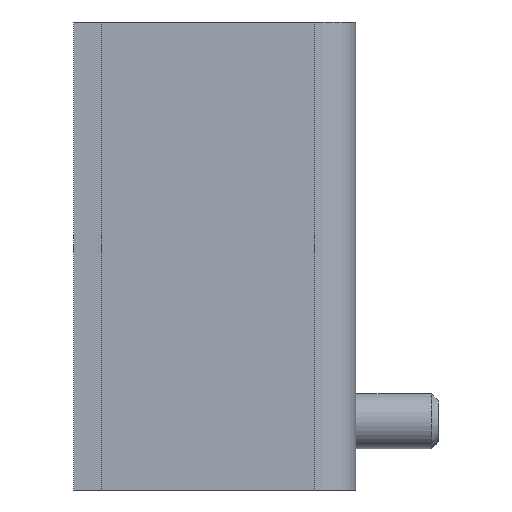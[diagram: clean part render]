
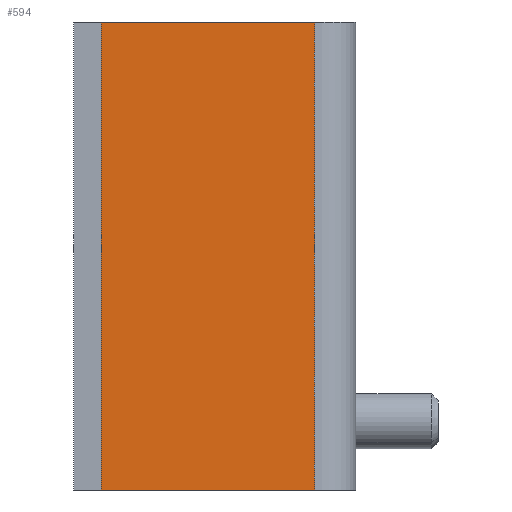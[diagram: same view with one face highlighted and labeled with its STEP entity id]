
A CAD part, left-side view. The second image highlights one B-rep face of the part: STEP entity #594.
In plain terms, the highlighted planar face has unit normal (-1, 0, 0).
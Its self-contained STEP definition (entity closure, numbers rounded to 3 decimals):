
#169 = VERTEX_POINT ( 'NONE', #979 ) ;
#265 = VERTEX_POINT ( 'NONE', #1103 ) ;
#449 = EDGE_LOOP ( 'NONE', ( #453, #458, #595, #513 ) ) ;
#450 = EDGE_CURVE ( 'NONE', #169, #512, #1448, .T. ) ;
#453 = ORIENTED_EDGE ( 'NONE', *, *, #535, .F. ) ;
#454 = EDGE_CURVE ( 'NONE', #169, #265, #1450, .T. ) ;
#458 = ORIENTED_EDGE ( 'NONE', *, *, #450, .F. ) ;
#512 = VERTEX_POINT ( 'NONE', #1601 ) ;
#513 = ORIENTED_EDGE ( 'NONE', *, *, #539, .T. ) ;
#535 = EDGE_CURVE ( 'NONE', #512, #540, #1803, .T. ) ;
#539 = EDGE_CURVE ( 'NONE', #265, #540, #1733, .T. ) ;
#540 = VERTEX_POINT ( 'NONE', #1779 ) ;
#594 = ADVANCED_FACE ( 'NONE', ( #1736 ), #1734, .T. ) ;
#595 = ORIENTED_EDGE ( 'NONE', *, *, #454, .T. ) ;
#979 = CARTESIAN_POINT ( 'NONE',  ( -2.5, 0.5, 34. ) ) ;
#1103 = CARTESIAN_POINT ( 'NONE',  ( -2.5, 16., 34. ) ) ;
#1440 = VECTOR ( 'NONE', #1582, 1000. ) ;
#1441 = CARTESIAN_POINT ( 'NONE',  ( -2.5, 0., 34. ) ) ;
#1445 = DIRECTION ( 'NONE',  ( 0., 0., -1. ) ) ;
#1446 = VECTOR ( 'NONE', #1445, 1000. ) ;
#1447 = CARTESIAN_POINT ( 'NONE',  ( -2.5, 0.5, 34. ) ) ;
#1448 = LINE ( 'NONE', #1447, #1446 ) ;
#1450 = LINE ( 'NONE', #1441, #1440 ) ;
#1582 = DIRECTION ( 'NONE',  ( 0., 1., 0. ) ) ;
#1601 = CARTESIAN_POINT ( 'NONE',  ( -2.5, 0.5, 0. ) ) ;
#1701 = DIRECTION ( 'NONE',  ( 0., 0., 1. ) ) ;
#1733 = LINE ( 'NONE', #1799, #1798 ) ;
#1734 = PLANE ( 'NONE',  #1744 ) ;
#1736 = FACE_OUTER_BOUND ( 'NONE', #449, .T. ) ;
#1741 = DIRECTION ( 'NONE',  ( 0., 1., 0. ) ) ;
#1742 = CARTESIAN_POINT ( 'NONE',  ( -2.5, 0., 0. ) ) ;
#1744 = AXIS2_PLACEMENT_3D ( 'NONE', #1769, #1768, #1701 ) ;
#1768 = DIRECTION ( 'NONE',  ( -1., 0., 0. ) ) ;
#1769 = CARTESIAN_POINT ( 'NONE',  ( -2.5, 0., 34. ) ) ;
#1779 = CARTESIAN_POINT ( 'NONE',  ( -2.5, 16., 0. ) ) ;
#1780 = DIRECTION ( 'NONE',  ( 0., 0., -1. ) ) ;
#1798 = VECTOR ( 'NONE', #1780, 1000. ) ;
#1799 = CARTESIAN_POINT ( 'NONE',  ( -2.5, 16., 34. ) ) ;
#1800 = VECTOR ( 'NONE', #1741, 1000. ) ;
#1803 = LINE ( 'NONE', #1742, #1800 ) ;
